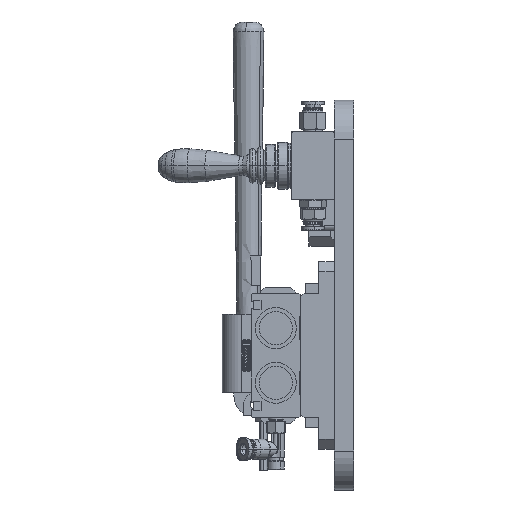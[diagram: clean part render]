
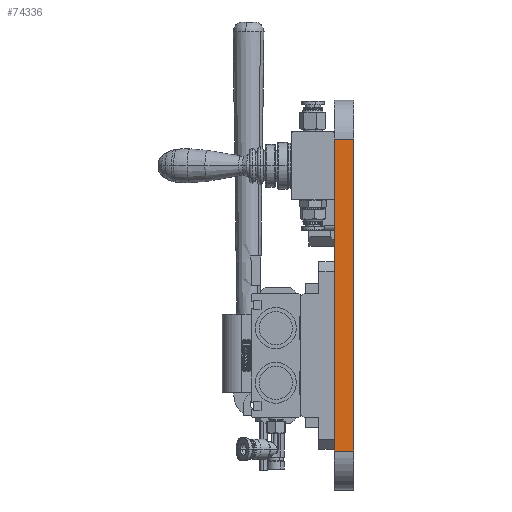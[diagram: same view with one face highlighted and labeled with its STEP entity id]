
A CAD part, left-side view. The second image highlights one B-rep face of the part: STEP entity #74336.
In plain terms, the highlighted planar face has unit normal (-1, 0, 0) as drawn and (1, 0, 0) by its records, which use the part's own axes.
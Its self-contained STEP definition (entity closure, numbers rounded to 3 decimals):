
#1175 = CARTESIAN_POINT ( 'NONE',  ( 330., 110., 10. ) ) ;
#2100 = DIRECTION ( 'NONE',  ( 0., -1., 0. ) ) ;
#4460 = VERTEX_POINT ( 'NONE', #20216 ) ;
#8921 = DIRECTION ( 'NONE',  ( 1., 0., 0. ) ) ;
#10202 = EDGE_CURVE ( 'NONE', #79180, #77342, #24608, .T. ) ;
#14813 = VECTOR ( 'NONE', #2100, 1000. ) ;
#15794 = VECTOR ( 'NONE', #57063, 1000. ) ;
#20216 = CARTESIAN_POINT ( 'NONE',  ( 330., 110., 10. ) ) ;
#22416 = VECTOR ( 'NONE', #26047, 1000. ) ;
#22860 = CARTESIAN_POINT ( 'NONE',  ( 330., 130., 10. ) ) ;
#22992 = VECTOR ( 'NONE', #50005, 1000. ) ;
#24608 = LINE ( 'NONE', #81315, #22416 ) ;
#26047 = DIRECTION ( 'NONE',  ( 0., 0., -1. ) ) ;
#33364 = LINE ( 'NONE', #22860, #14813 ) ;
#43008 = CARTESIAN_POINT ( 'NONE',  ( 330., 130., 0. ) ) ;
#44381 = ORIENTED_EDGE ( 'NONE', *, *, #90248, .F. ) ;
#45010 = CARTESIAN_POINT ( 'NONE',  ( 330., -50., 10. ) ) ;
#47906 = FACE_OUTER_BOUND ( 'NONE', #54624, .T. ) ;
#50005 = DIRECTION ( 'NONE',  ( 0., 0., 1. ) ) ;
#54363 = ORIENTED_EDGE ( 'NONE', *, *, #10202, .T. ) ;
#54620 = CARTESIAN_POINT ( 'NONE',  ( 330., -50., 0. ) ) ;
#54624 = EDGE_LOOP ( 'NONE', ( #60838, #54363, #44381, #72310 ) ) ;
#56086 = VERTEX_POINT ( 'NONE', #70708 ) ;
#57063 = DIRECTION ( 'NONE',  ( 0., -1., 0. ) ) ;
#57830 = DIRECTION ( 'NONE',  ( 0., 0., -1. ) ) ;
#60838 = ORIENTED_EDGE ( 'NONE', *, *, #75759, .T. ) ;
#70708 = CARTESIAN_POINT ( 'NONE',  ( 330., 110., 0. ) ) ;
#71324 = AXIS2_PLACEMENT_3D ( 'NONE', #85593, #8921, #57830 ) ;
#71507 = LINE ( 'NONE', #43008, #15794 ) ;
#72310 = ORIENTED_EDGE ( 'NONE', *, *, #73717, .T. ) ;
#73717 = EDGE_CURVE ( 'NONE', #56086, #4460, #76491, .T. ) ;
#74336 = ADVANCED_FACE ( 'NONE', ( #47906 ), #85298, .T. ) ;
#75759 = EDGE_CURVE ( 'NONE', #4460, #79180, #33364, .T. ) ;
#76491 = LINE ( 'NONE', #1175, #22992 ) ;
#77342 = VERTEX_POINT ( 'NONE', #54620 ) ;
#79180 = VERTEX_POINT ( 'NONE', #45010 ) ;
#81315 = CARTESIAN_POINT ( 'NONE',  ( 330., -50., 10. ) ) ;
#85298 = PLANE ( 'NONE',  #71324 ) ;
#85593 = CARTESIAN_POINT ( 'NONE',  ( 330., 130., 10. ) ) ;
#90248 = EDGE_CURVE ( 'NONE', #56086, #77342, #71507, .T. ) ;
